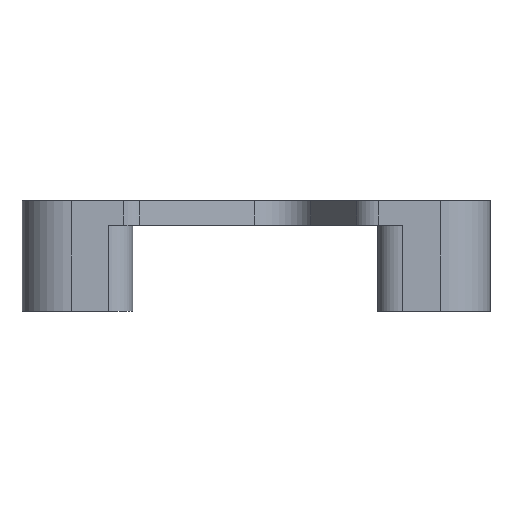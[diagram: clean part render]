
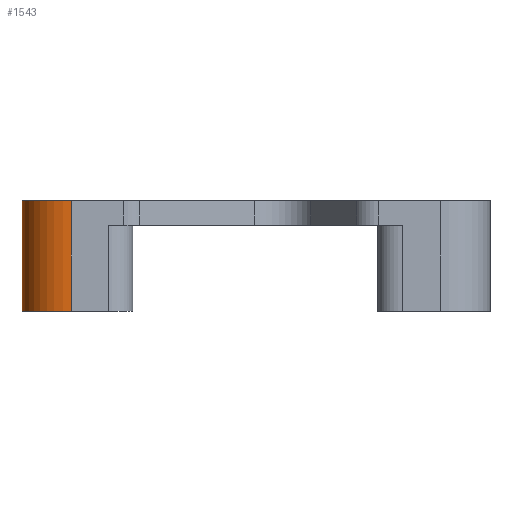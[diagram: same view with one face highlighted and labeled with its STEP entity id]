
A CAD part, left-side view. The second image highlights one B-rep face of the part: STEP entity #1543.
In plain terms, the highlighted cylindrical face has radius 4 mm (diameter 8 mm), a partial arc.
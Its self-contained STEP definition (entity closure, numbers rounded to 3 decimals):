
#107=FACE_OUTER_BOUND('',#194,.T.);
#194=EDGE_LOOP('',(#1229,#1230,#1231,#1232));
#325=LINE('',#2592,#455);
#326=LINE('',#2595,#456);
#455=VECTOR('',#2102,10.);
#456=VECTOR('',#2105,10.);
#579=CIRCLE('',#1714,4.);
#580=CIRCLE('',#1715,4.);
#721=VERTEX_POINT('',#2588);
#722=VERTEX_POINT('',#2589);
#723=VERTEX_POINT('',#2591);
#724=VERTEX_POINT('',#2593);
#917=EDGE_CURVE('',#721,#722,#579,.T.);
#918=EDGE_CURVE('',#722,#723,#325,.T.);
#919=EDGE_CURVE('',#723,#724,#580,.T.);
#920=EDGE_CURVE('',#724,#721,#326,.T.);
#1229=ORIENTED_EDGE('',*,*,#917,.T.);
#1230=ORIENTED_EDGE('',*,*,#918,.T.);
#1231=ORIENTED_EDGE('',*,*,#919,.T.);
#1232=ORIENTED_EDGE('',*,*,#920,.T.);
#1479=CYLINDRICAL_SURFACE('',#1713,4.);
#1543=ADVANCED_FACE('',(#107),#1479,.T.);
#1713=AXIS2_PLACEMENT_3D('',#2587,#2098,#2099);
#1714=AXIS2_PLACEMENT_3D('',#2590,#2100,#2101);
#1715=AXIS2_PLACEMENT_3D('',#2594,#2103,#2104);
#2098=DIRECTION('center_axis',(0.,0.,1.));
#2099=DIRECTION('ref_axis',(-0.707,0.707,0.));
#2100=DIRECTION('center_axis',(0.,0.,
-1.));
#2101=DIRECTION('ref_axis',(-0.707,0.707,0.));
#2102=DIRECTION('',(0.,0.,-1.));
#2103=DIRECTION('center_axis',(0.,0.,
1.));
#2104=DIRECTION('ref_axis',(-0.707,0.707,0.));
#2105=DIRECTION('',(0.,0.,1.));
#2587=CARTESIAN_POINT('Origin',(32.375,113.069,-0.65));
#2588=CARTESIAN_POINT('',(28.375,113.069,8.35));
#2589=CARTESIAN_POINT('',(32.375,117.069,8.35));
#2590=CARTESIAN_POINT('Origin',(32.375,113.069,8.35));
#2591=CARTESIAN_POINT('',(32.375,117.069,-0.65));
#2592=CARTESIAN_POINT('',(32.375,117.069,-0.65));
#2593=CARTESIAN_POINT('',(28.375,113.069,-0.65));
#2594=CARTESIAN_POINT('Origin',(32.375,113.069,-0.65));
#2595=CARTESIAN_POINT('',(28.375,113.069,-0.65));
